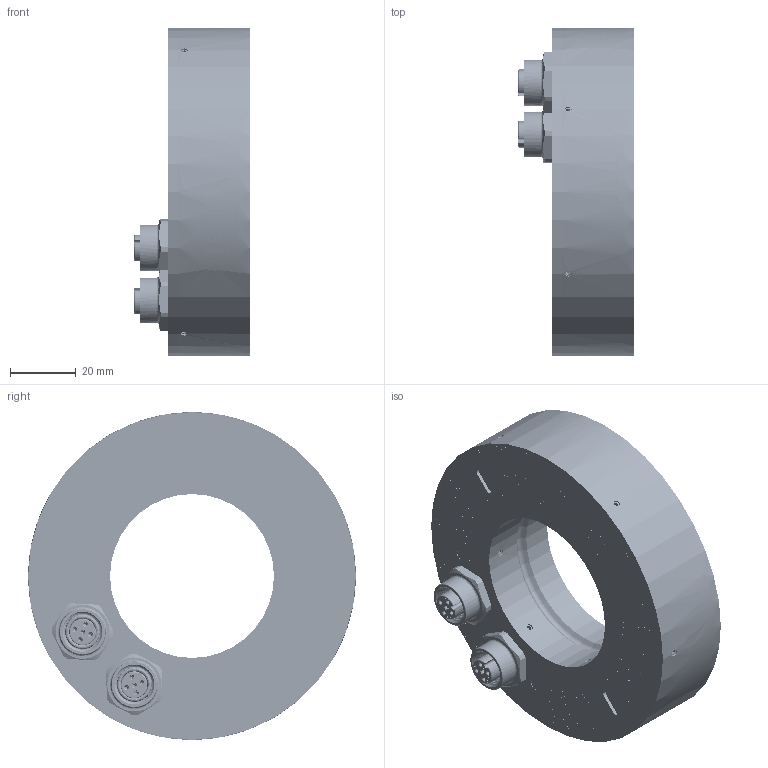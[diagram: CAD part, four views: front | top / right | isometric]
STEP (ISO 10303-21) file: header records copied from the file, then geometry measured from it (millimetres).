
FILE_DESCRIPTION (( 'STEP AP203' ), '1' );
FILE_NAME ('K0E012331_IC-REMOTE F100_50_zum_Versenden.STEP', '2023-12-22T06:55:46', ( '' ), ( '' ), 'SwSTEP 2.0', 'SolidWorks 2023', '' );
FILE_SCHEMA (( 'CONFIG_CONTROL_DESIGN' ));
Length unit declared in the file: millimetre
Products named in the file (1): K0E012331_IC-REMOTE F100_50_zum_Versenden
Bounding box: 35.34 x 100 x 100 mm (x, y, z)
Surface area: 63527 mm2 (no closed solid volume)
Topology: 0 solids, 57 shells, 5958 faces, 17252 edges, 11896 vertices
Faces by surface type: plane 3284, bspline 2000, cylinder 486, cone 172, torus 16
Entity records: 309091 total; most frequent: CARTESIAN_POINT 166064, ORIENTED_EDGE 33444, DIRECTION 21626, EDGE_CURVE 17236, VERTEX_POINT 11896, VECTOR 11026, LINE 11026, EDGE_LOOP 6684
